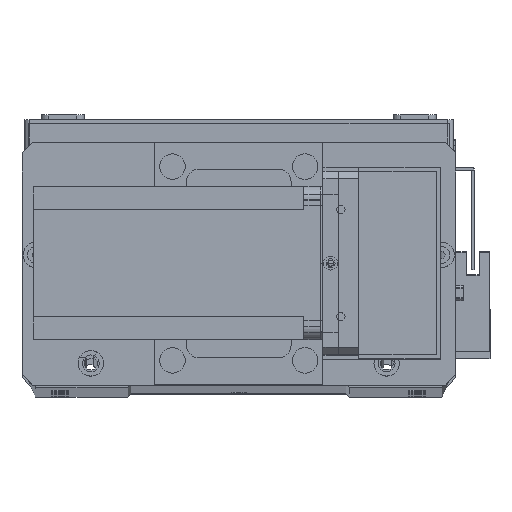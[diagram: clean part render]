
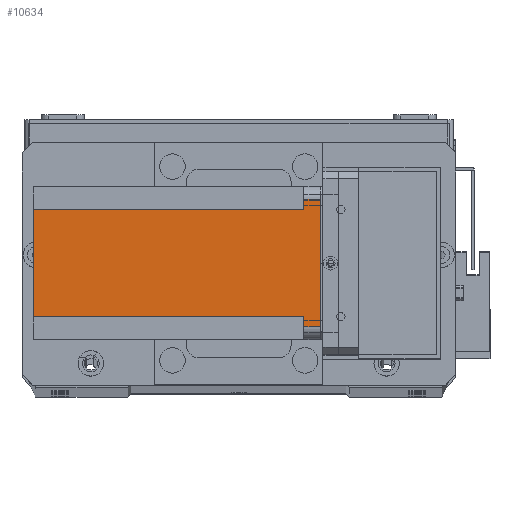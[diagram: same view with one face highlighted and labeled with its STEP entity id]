
A CAD part, top view. The second image highlights one B-rep face of the part: STEP entity #10634.
In plain terms, the highlighted planar face has unit normal (0, 0, 1) as drawn and (-1, 0, 0) by its records, which use the part's own axes.
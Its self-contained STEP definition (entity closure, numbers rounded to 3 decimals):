
#502 = CARTESIAN_POINT ( 'NONE',  ( 0., 51., -112.5 ) ) ;
#997 = DIRECTION ( 'NONE',  ( 0., -1., 0. ) ) ;
#1111 = VERTEX_POINT ( 'NONE', #29926 ) ;
#1224 = CARTESIAN_POINT ( 'NONE',  ( 0., 0., 0. ) ) ;
#1696 = VECTOR ( 'NONE', #31246, 1000. ) ;
#2322 = LINE ( 'NONE', #502, #29901 ) ;
#2780 = EDGE_CURVE ( 'NONE', #32204, #11703, #11995, .T. ) ;
#3517 = ORIENTED_EDGE ( 'NONE', *, *, #27844, .T. ) ;
#3914 = EDGE_LOOP ( 'NONE', ( #21197, #3517, #5759, #24837, #17475, #17620, #26604, #28958 ) ) ;
#4177 = LINE ( 'NONE', #6072, #30079 ) ;
#4289 = DIRECTION ( 'NONE',  ( 0., 0., -1. ) ) ;
#4917 = VECTOR ( 'NONE', #997, 1000. ) ;
#5759 = ORIENTED_EDGE ( 'NONE', *, *, #2780, .F. ) ;
#6072 = CARTESIAN_POINT ( 'NONE',  ( 0., 9., -112.5 ) ) ;
#6255 = LINE ( 'NONE', #27239, #25563 ) ;
#7773 = CARTESIAN_POINT ( 'NONE',  ( 0., 9., -6.5 ) ) ;
#8160 = DIRECTION ( 'NONE',  ( 0., 0., 1. ) ) ;
#8301 = EDGE_CURVE ( 'NONE', #31863, #11532, #4177, .T. ) ;
#8355 = EDGE_CURVE ( 'NONE', #23435, #1111, #22960, .T. ) ;
#8360 = EDGE_CURVE ( 'NONE', #26715, #11532, #23711, .T. ) ;
#8444 = DIRECTION ( 'NONE',  ( 0., 0., 1. ) ) ;
#8457 = EDGE_CURVE ( 'NONE', #32204, #1111, #6255, .T. ) ;
#9053 = CARTESIAN_POINT ( 'NONE',  ( 0., 55., 0. ) ) ;
#9827 = VECTOR ( 'NONE', #21631, 1000. ) ;
#9996 = VERTEX_POINT ( 'NONE', #19778 ) ;
#10634 = ADVANCED_FACE ( 'NONE', ( #22545 ), #31524, .T. ) ;
#11532 = VERTEX_POINT ( 'NONE', #22798 ) ;
#11703 = VERTEX_POINT ( 'NONE', #18305 ) ;
#11995 = LINE ( 'NONE', #1224, #4917 ) ;
#13289 = CARTESIAN_POINT ( 'NONE',  ( 0., 5., -112.5 ) ) ;
#13304 = EDGE_CURVE ( 'NONE', #9996, #31863, #28761, .T. ) ;
#14619 = LINE ( 'NONE', #13289, #26879 ) ;
#15581 = VECTOR ( 'NONE', #31517, 1000. ) ;
#15802 = AXIS2_PLACEMENT_3D ( 'NONE', #31425, #31480, #31411 ) ;
#17475 = ORIENTED_EDGE ( 'NONE', *, *, #8355, .F. ) ;
#17620 = ORIENTED_EDGE ( 'NONE', *, *, #27269, .F. ) ;
#18305 = CARTESIAN_POINT ( 'NONE',  ( 0., 5., 0. ) ) ;
#19778 = CARTESIAN_POINT ( 'NONE',  ( 0., 5., -6.5 ) ) ;
#21197 = ORIENTED_EDGE ( 'NONE', *, *, #13304, .F. ) ;
#21573 = CARTESIAN_POINT ( 'NONE',  ( 0., 0., -6.5 ) ) ;
#21631 = DIRECTION ( 'NONE',  ( 0., 1., 0. ) ) ;
#22545 = FACE_OUTER_BOUND ( 'NONE', #3914, .T. ) ;
#22798 = CARTESIAN_POINT ( 'NONE',  ( 0., 9., -112.5 ) ) ;
#22960 = LINE ( 'NONE', #31587, #15581 ) ;
#23435 = VERTEX_POINT ( 'NONE', #25836 ) ;
#23711 = LINE ( 'NONE', #31744, #1696 ) ;
#23965 = CARTESIAN_POINT ( 'NONE',  ( 0., 51., -112.5 ) ) ;
#24837 = ORIENTED_EDGE ( 'NONE', *, *, #8457, .T. ) ;
#25563 = VECTOR ( 'NONE', #27213, 1000. ) ;
#25836 = CARTESIAN_POINT ( 'NONE',  ( 0., 51., -6.5 ) ) ;
#26604 = ORIENTED_EDGE ( 'NONE', *, *, #8360, .T. ) ;
#26715 = VERTEX_POINT ( 'NONE', #23965 ) ;
#26879 = VECTOR ( 'NONE', #8160, 1000. ) ;
#27213 = DIRECTION ( 'NONE',  ( 0., 0., -1. ) ) ;
#27239 = CARTESIAN_POINT ( 'NONE',  ( 0., 55., -112.5 ) ) ;
#27269 = EDGE_CURVE ( 'NONE', #26715, #23435, #2322, .T. ) ;
#27844 = EDGE_CURVE ( 'NONE', #9996, #11703, #14619, .T. ) ;
#28761 = LINE ( 'NONE', #21573, #9827 ) ;
#28958 = ORIENTED_EDGE ( 'NONE', *, *, #8301, .F. ) ;
#29901 = VECTOR ( 'NONE', #8444, 1000. ) ;
#29926 = CARTESIAN_POINT ( 'NONE',  ( 0., 55., -6.5 ) ) ;
#30079 = VECTOR ( 'NONE', #4289, 1000. ) ;
#31246 = DIRECTION ( 'NONE',  ( 0., -1., 0. ) ) ;
#31411 = DIRECTION ( 'NONE',  ( 0., -1., 0. ) ) ;
#31425 = CARTESIAN_POINT ( 'NONE',  ( 0., 0., -112.5 ) ) ;
#31480 = DIRECTION ( 'NONE',  ( -1., 0., 0. ) ) ;
#31517 = DIRECTION ( 'NONE',  ( 0., 1., 0. ) ) ;
#31524 = PLANE ( 'NONE',  #15802 ) ;
#31587 = CARTESIAN_POINT ( 'NONE',  ( 0., 60., -6.5 ) ) ;
#31744 = CARTESIAN_POINT ( 'NONE',  ( 0., 0., -112.5 ) ) ;
#31863 = VERTEX_POINT ( 'NONE', #7773 ) ;
#32204 = VERTEX_POINT ( 'NONE', #9053 ) ;
